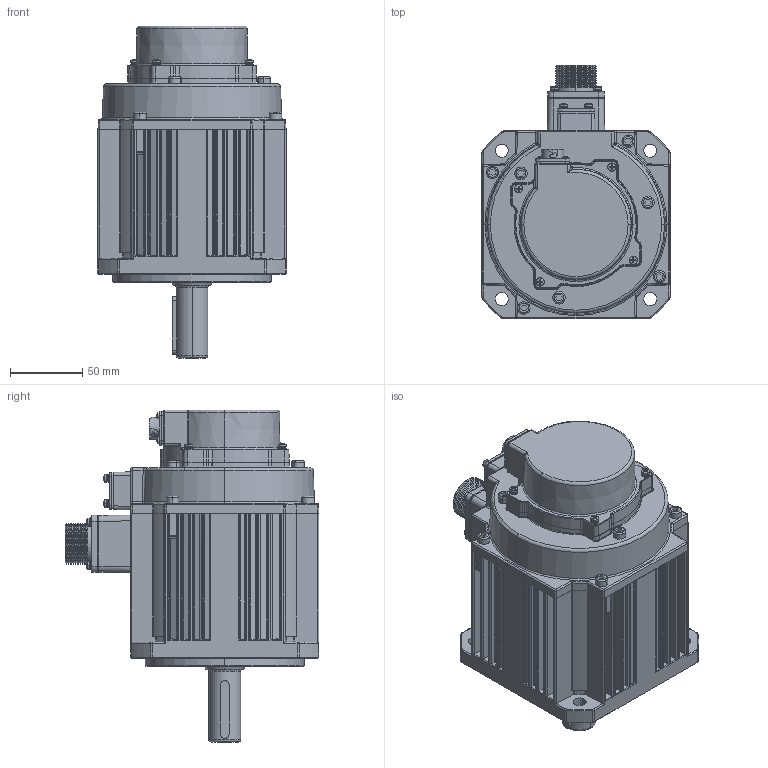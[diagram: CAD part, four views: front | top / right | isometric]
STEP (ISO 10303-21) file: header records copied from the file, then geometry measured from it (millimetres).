
FILE_DESCRIPTION (( 'STEP AP203' ), '1' );
FILE_NAME ('G3-130-8.28NM刹车电机三维图.STEP', '2022-12-05T11:43:28', ( '微软用户' ), ( '微软中国' ), 'SwSTEP 2.0', 'SolidWorks 2016', '' );
FILE_SCHEMA (( 'CONFIG_CONTROL_DESIGN' ));
Products named in the file (1): G3-130-8.28NM刹车电机三维图
Bounding box: 130 x 175.3 x 229.5 mm (x, y, z)
Volume: 681131.5 mm3; surface area: 308937.3 mm2
Topology: 35 solids, 35 shells, 3414 faces, 8544 edges, 5312 vertices
Faces by surface type: plane 1101, cylinder 996, cone 576, bspline 333, torus 305, sphere 103
Entity records: 114801 total; most frequent: CARTESIAN_POINT 34893, ORIENTED_EDGE 16820, DIRECTION 16682, EDGE_CURVE 8410, AXIS2_PLACEMENT_3D 6384, VERTEX_POINT 5280, LINE 3914, VECTOR 3914
